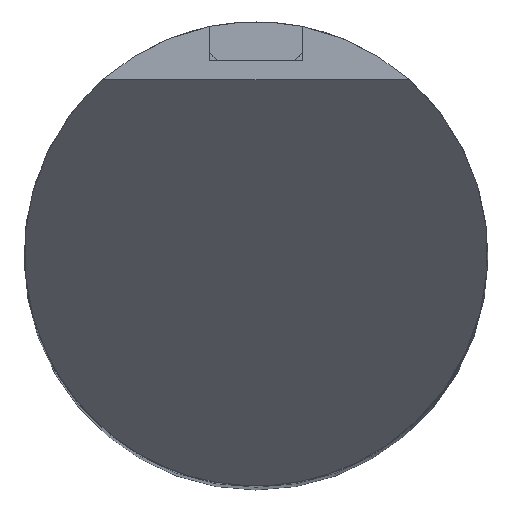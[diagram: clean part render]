
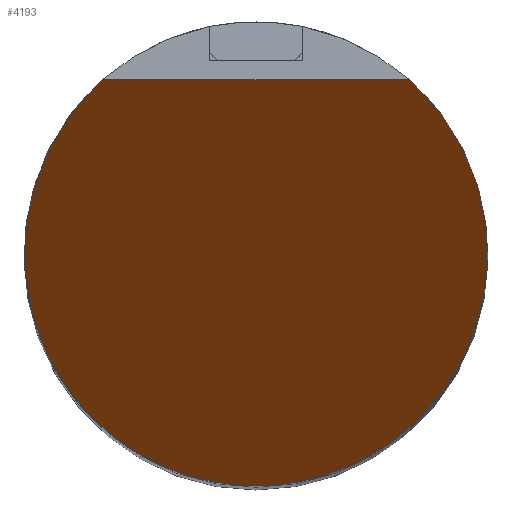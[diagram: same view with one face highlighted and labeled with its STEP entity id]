
A CAD part, top view. The second image highlights one B-rep face of the part: STEP entity #4193.
In plain terms, the highlighted planar face has unit normal (0, -0.707, 0.707) as drawn and (0.707, -0.707, 0) by its records, which use the part's own axes.
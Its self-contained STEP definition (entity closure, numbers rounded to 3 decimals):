
#219=ELLIPSE('',#4760,8.485,6.);
#610=FACE_OUTER_BOUND('',#900,.T.);
#900=EDGE_LOOP('',(#2969,#2970));
#1274=LINE('',#6697,#1458);
#1458=VECTOR('',#5371,10.);
#1900=VERTEX_POINT('',#6694);
#1901=VERTEX_POINT('',#6696);
#2335=EDGE_CURVE('',#1901,#1900,#1274,.T.);
#2343=EDGE_CURVE('',#1901,#1900,#219,.T.);
#2969=ORIENTED_EDGE('',*,*,#2335,.T.);
#2970=ORIENTED_EDGE('',*,*,#2343,.F.);
#4109=PLANE('',#4759);
#4193=ADVANCED_FACE('',(#610),#4109,.F.);
#4759=AXIS2_PLACEMENT_3D('',#6711,#5391,#5392);
#4760=AXIS2_PLACEMENT_3D('',#6712,#5393,#5394);
#5371=DIRECTION('',(0.,0.,-1.));
#5391=DIRECTION('center_axis',(-0.707,0.707,0.));
#5392=DIRECTION('ref_axis',(-0.707,-0.707,0.));
#5393=DIRECTION('center_axis',(-0.707,0.707,0.));
#5394=DIRECTION('ref_axis',(-0.707,-0.707,0.));
#6694=CARTESIAN_POINT('',(-6.645,-20.158,-3.969));
#6696=CARTESIAN_POINT('',(-6.645,-20.158,3.969));
#6697=CARTESIAN_POINT('',(-6.645,-20.158,0.));
#6711=CARTESIAN_POINT('Origin',(5.99,-7.522,0.));
#6712=CARTESIAN_POINT('Origin',(-2.145,-15.658,0.));
